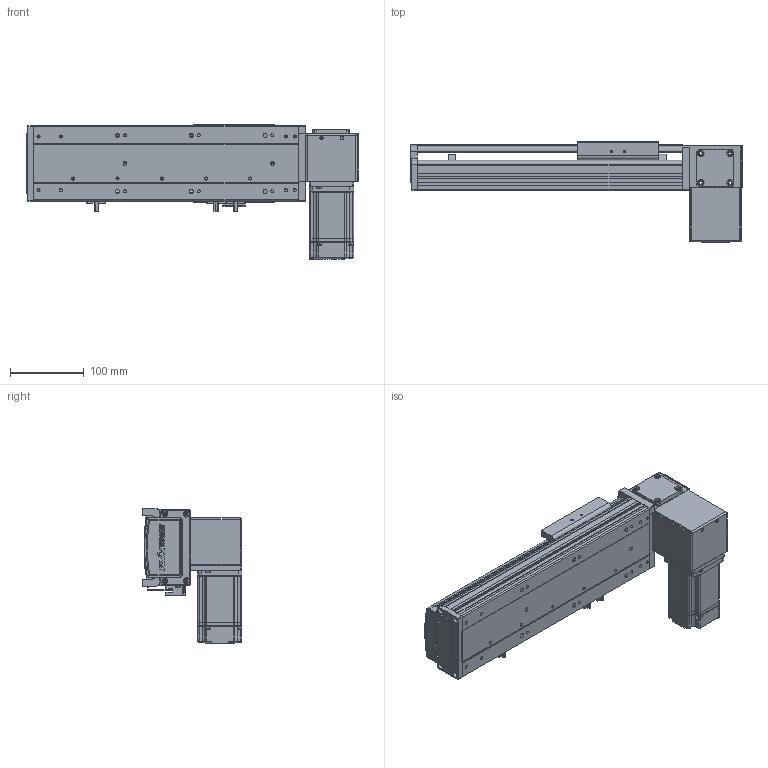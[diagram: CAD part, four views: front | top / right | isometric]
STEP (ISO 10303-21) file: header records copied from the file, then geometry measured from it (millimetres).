
FILE_DESCRIPTION (( 'STEP AP203' ), '1' );
FILE_NAME ('RY100-T-300-DL.SLDASM_150.step', '2024-04-24T01:10:25', ( '盈信电脑' ), ( '东莞市道滘镇水果街19号' ), 'SwSTEP 2.0', 'SolidWorks 2016', '' );
FILE_SCHEMA (( 'CONFIG_CONTROL_DESIGN' ));
Length unit declared in the file: millimetre
Products named in the file (16): RY100-T-300-RK倰第菁釱_150; 1; RY100-T-300-DL.SLDASM_150; RY100-T左右折电机安装板; RY80-T肮祭謫狟殏俋欶; RY100-T翋肮祭謫裔啣2; 覜茼ん672; 滅袉蝶18-10; RY100-T肮祭謫臏賑輸; RY100-T-300-RK倰第奻裔_150; RY100綴裔啣; RY100俋离覜茼え; RY100-T粣創揤踡裔; RY100-T翋肮祭謫粣; RY100-T肮祭謫翋盓傅釱; RY100-T翋肮祭謫裔啣
Assembly tree (18 placements, depth 2):
  RY100-T-300-DL.SLDASM_150
    RY100-T-300-RK倰第菁釱_150
    RY100-T-300-RK倰第奻裔_150
    RY100-T肮祭謫臏賑輸
    RY100綴裔啣
    覜茼ん672  x3
    RY100俋离覜茼え
    RY100-T翋肮祭謫粣
    RY100-T肮祭謫翋盓傅釱
    滅袉蝶18-10  x2
    RY100-T翋肮祭謫裔啣
    1
    RY100-T左右折电机安装板
    RY100-T粣創揤踡裔
    RY100-T翋肮祭謫裔啣2
    RY80-T肮祭謫狟殏俋欶
Bounding box: 450 x 135.5 x 182.5 mm (x, y, z)
Volume: 1287608 mm3; surface area: 480867.4 mm2
Topology: 18 solids, 18 shells, 2111 faces, 5799 edges, 3759 vertices
Faces by surface type: plane 1195, cylinder 707, cone 131, bspline 78
Entity records: 66816 total; most frequent: CARTESIAN_POINT 15748, ORIENTED_EDGE 10430, DIRECTION 9983, EDGE_CURVE 5215, VECTOR 3477, LINE 3477, VERTEX_POINT 3427, AXIS2_PLACEMENT_3D 3253
